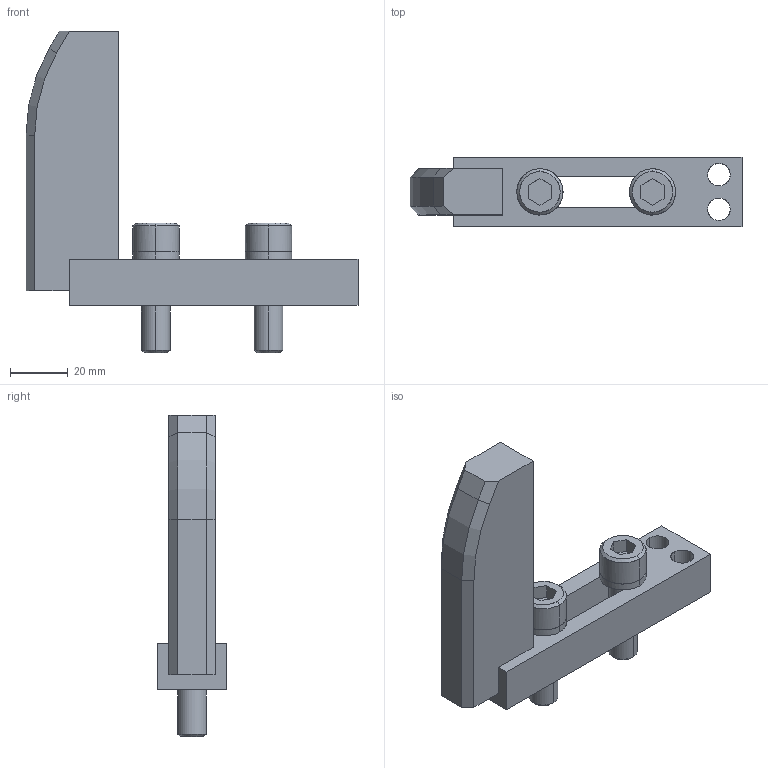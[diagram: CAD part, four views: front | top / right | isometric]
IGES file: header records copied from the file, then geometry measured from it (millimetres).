
Global section: file name: E:\UnigraphicsGraphicData\MISUMI_PRESS-PARTS\IGES\3d_ngnba-95-20-m10_01523_r00.igs; native system: NX V5.0; preprocessor: UGS NX IGES V5.0; author: MISUMI; date: 20110105.162049; units: millimetre
Bounding box: 115 x 24 x 111.5 mm (x, y, z)
Surface area: 24863.8 mm2 (no closed solid volume)
Topology: 0 solids, 0 shells, 100 faces, 630 edges, 630 vertices
Faces by surface type: bspline 100
